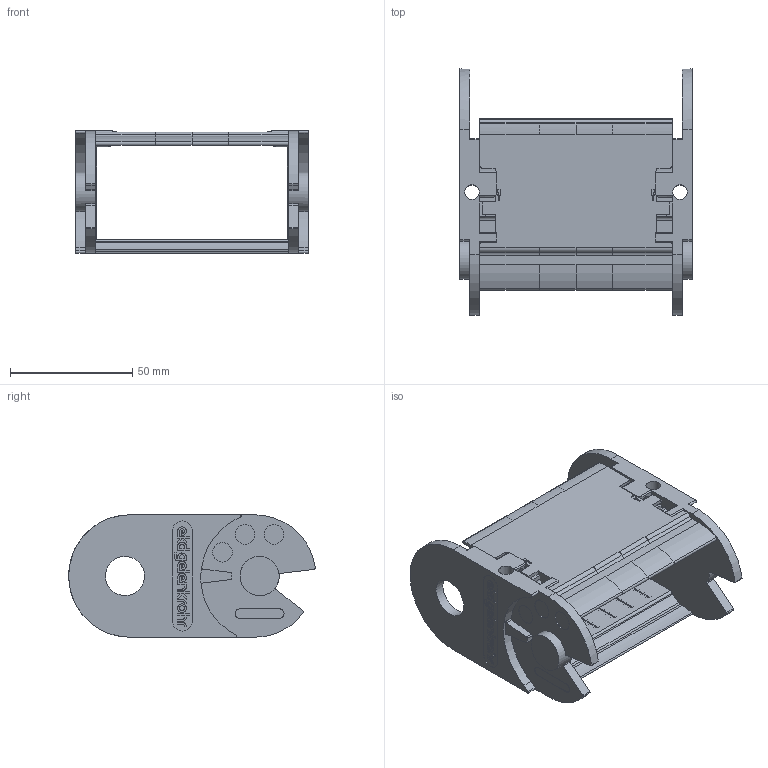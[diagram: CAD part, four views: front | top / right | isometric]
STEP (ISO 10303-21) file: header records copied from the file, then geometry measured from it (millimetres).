
FILE_DESCRIPTION((''),'2;1');
FILE_NAME('C:\Uebbing\PARAMETERKETTEN\KOLIBRI\Kol_50_095_5\Kol_50_095_5 Glied.stp','2015-06-24T14:02:01',('Uebbing'),(''),'Autodesk Inventor 10','Autodesk Inventor 10','');
FILE_SCHEMA(('AUTOMOTIVE_DESIGN { 1 0 10303 214 1 1 1 1 }'));
Length unit declared in the file: millimetre
Products named in the file (3): Kol_50_095_5 Glied; Kol_50_095_5_Lasche; Kol_50_095_5_Klappdeckel
Assembly tree (2 placements, depth 2):
  Kol_50_095_5 Glied
    Kol_50_095_5_Lasche
    Kol_50_095_5_Klappdeckel
Bounding box: 95 x 100.78 x 50 mm (x, y, z)
Volume: 66533.7 mm3; surface area: 46408.5 mm2
Topology: 2 solids, 2 shells, 759 faces, 2070 edges, 1349 vertices
Faces by surface type: plane 419, cylinder 226, bspline 110, cone 3, sphere 1
Full cylindrical faces by diameter (mm): 2.011 x2, 3.531 x2, 4 x6, 6 x2, 8 x6, 16 x2
Entity records: 24672 total; most frequent: CARTESIAN_POINT 5429, ORIENTED_EDGE 4070, DIRECTION 3866, EDGE_CURVE 2035, VECTOR 1466, LINE 1466, VERTEX_POINT 1340, AXIS2_PLACEMENT_3D 1200
